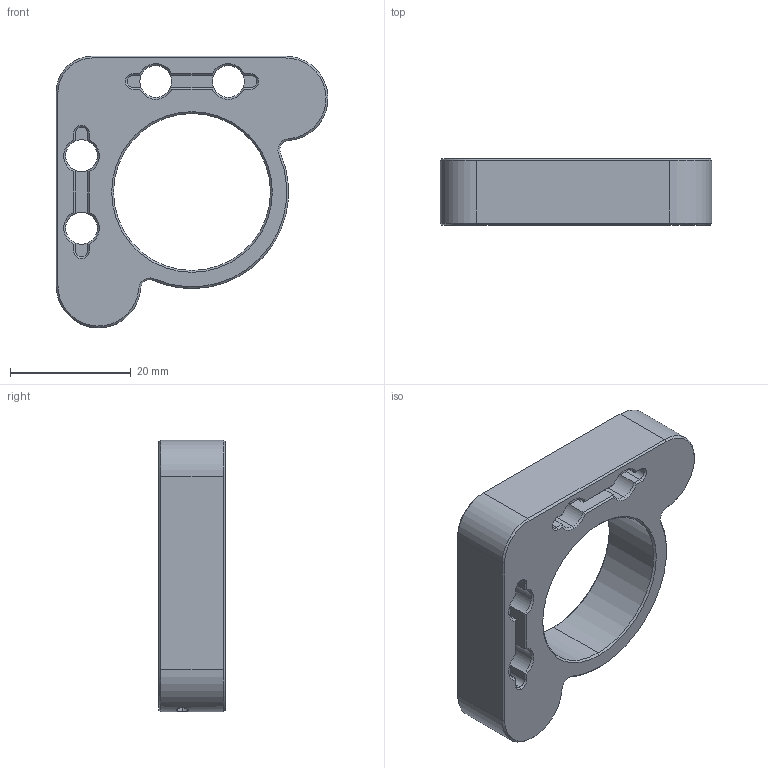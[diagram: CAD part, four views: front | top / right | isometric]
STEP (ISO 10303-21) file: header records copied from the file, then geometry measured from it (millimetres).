
FILE_DESCRIPTION (( 'STEP AP214' ), '1' );
FILE_NAME ('1英寸动板-卡环（11厚度）.STEP', '2026-09-01T06:43:14', ( '' ), ( '' ), 'SwSTEP 2.0', 'SolidWorks 2024', '' );
FILE_SCHEMA (( 'AUTOMOTIVE_DESIGN' ));
Length unit declared in the file: millimetre
Products named in the file (1): 1英寸动板-卡环（11厚度）
Bounding box: 45 x 11 x 45 mm (x, y, z)
Volume: 9321.2 mm3; surface area: 5618.4 mm2
Topology: 1 solids, 1 shells, 136 faces, 342 edges, 205 vertices
Faces by surface type: plane 48, cone 44, cylinder 44
Entity records: 4221 total; most frequent: CARTESIAN_POINT 896, DIRECTION 718, ORIENTED_EDGE 680, EDGE_CURVE 340, AXIS2_PLACEMENT_3D 273, VERTEX_POINT 205, VECTOR 172, LINE 172
